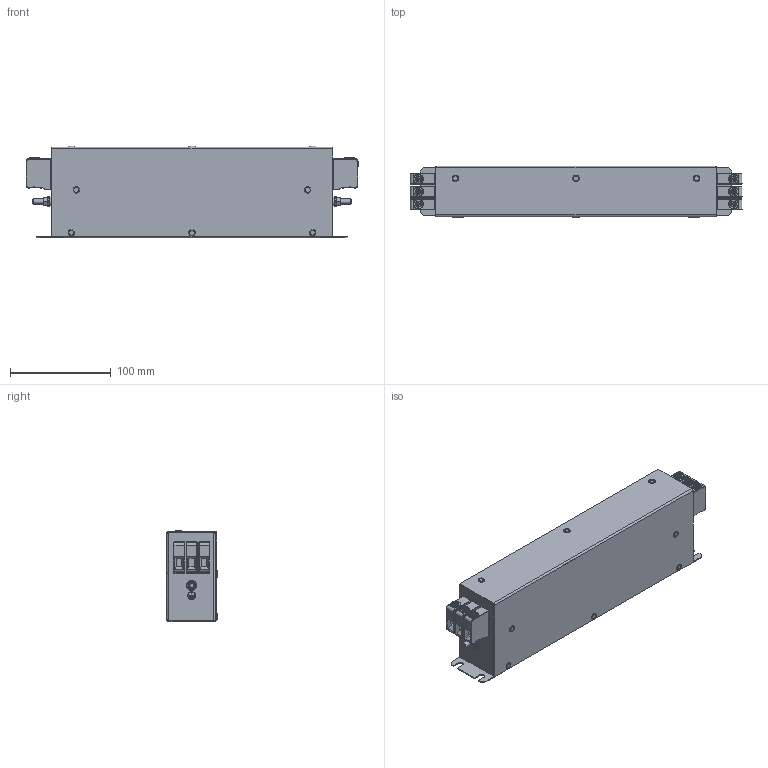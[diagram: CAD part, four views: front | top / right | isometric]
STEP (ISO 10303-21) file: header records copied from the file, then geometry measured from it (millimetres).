
FILE_DESCRIPTION((''),'2;1');
FILE_NAME('L:\INVENTOR_Projektedaten\HousingDesign\FN3258-42-33.stp','2011-03-21T15:05:38',('giovanni.asta'),(''),'Autodesk Inventor 2008','Autodesk Inventor 2008','');
FILE_SCHEMA(('AUTOMOTIVE_DESIGN { 1 0 10303 214 1 1 1 1 }'));
Length unit declared in the file: millimetre
Products named in the file (1): FN3258-42-33_forStep
Bounding box: 330 x 50.8 x 90.8 mm (x, y, z)
Volume: 155220.4 mm3; surface area: 197135.8 mm2
Topology: 1 solids, 5 shells, 1634 faces, 4025 edges, 2379 vertices
Faces by surface type: plane 679, cylinder 537, bspline 204, sphere 108, torus 80, cone 26
Full cylindrical faces by diameter (mm): 3.2 x8, 3.3 x2, 3.5 x5, 5 x6, 5.1 x6, 5.3 x4, 6.5 x9, 6.88 x2, 7 x1, 8 x1, 8.7 x2, 10 x8
Entity records: 52792 total; most frequent: CARTESIAN_POINT 13861, DIRECTION 7710, ORIENTED_EDGE 7640, EDGE_CURVE 3820, AXIS2_PLACEMENT_3D 2733, VERTEX_POINT 2364, VECTOR 2244, LINE 2244
